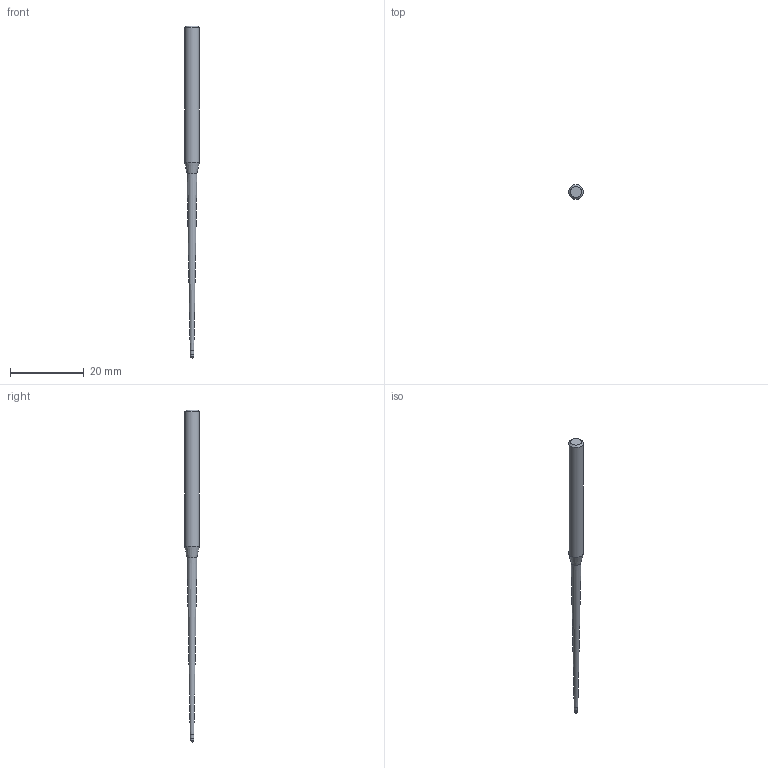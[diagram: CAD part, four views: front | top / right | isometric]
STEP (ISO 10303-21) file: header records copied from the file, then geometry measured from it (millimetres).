
FILE_DESCRIPTION((''),'2;1');
FILE_NAME('C:\Users\nsx150\AppData\Local\Temp\Mastercam 2021\SNAKH10GOD\TEMP.step','2021-10-21T13:32:13',(''),(''),'STEP Write','Mastercam 2021 ... CNC Software, Inc.','');
FILE_SCHEMA(('AUTOMOTIVE_DESIGN'));
Length unit declared in the file: millimetre
Products named in the file (1): None
Bounding box: 4 x 4 x 90 mm (x, y, z)
Volume: 626.8 mm3; surface area: 789.7 mm2
Topology: 2 solids, 2 shells, 10 faces, 16 edges, 9 vertices
Faces by surface type: plane 3, cylinder 3, cone 3, sphere 1
Full cylindrical faces by diameter (mm): 0.985 x1, 1 x1, 4 x1
Entity records: 232 total; most frequent: DIRECTION 40, CARTESIAN_POINT 28, AXIS2_PLACEMENT_3D 20, ORIENTED_EDGE 16, EDGE_LOOP 16, STYLED_ITEM 13, ADVANCED_FACE 10, FACE_BOUND 9
